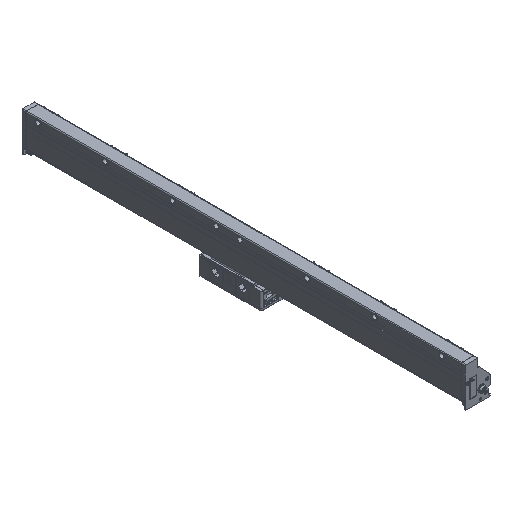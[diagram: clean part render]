
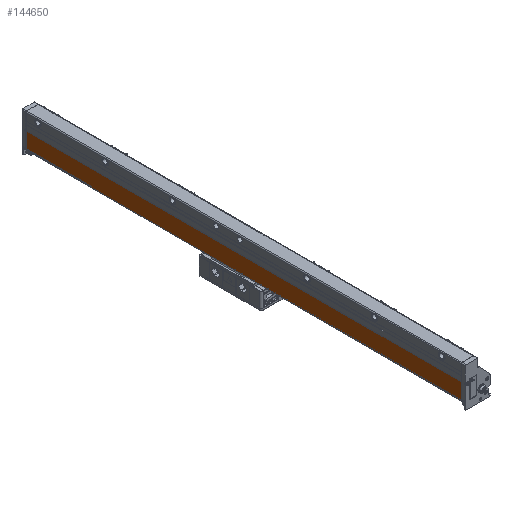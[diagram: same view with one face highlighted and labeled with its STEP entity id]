
A CAD part, isometric view. The second image highlights one B-rep face of the part: STEP entity #144650.
In plain terms, the highlighted planar face has unit normal (-1, 0, 0).
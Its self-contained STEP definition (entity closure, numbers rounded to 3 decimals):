
#13860=CARTESIAN_POINT('',(-2.2,313.,
60.2));
#13870=VERTEX_POINT('',#13860);
#13900=CARTESIAN_POINT('',(-2.2,313.,
35.5));
#13910=DIRECTION('',(0.,0.,1.));
#13920=VECTOR('',#13910,1.);
#13930=LINE('',#13900,#13920);
#13940=CARTESIAN_POINT('',(-2.2,313.,
35.5));
#13950=VERTEX_POINT('',#13940);
#13960=EDGE_CURVE('',#13950,#13870,#13930,.T.);
#132680=CARTESIAN_POINT('',(-2.2,213.,
35.5));
#132690=DIRECTION('',(0.,-1.,0.));
#132700=VECTOR('',#132690,1.);
#132710=LINE('',#132680,#132700);
#132720=CARTESIAN_POINT('',(-2.2,-334.,
35.5));
#132730=VERTEX_POINT('',#132720);
#132740=EDGE_CURVE('',#13950,#132730,#132710,.T.);
#132920=CARTESIAN_POINT('',(-2.2,-334.,
35.5));
#132930=DIRECTION('',(0.,0.,1.));
#132940=VECTOR('',#132930,1.);
#132950=LINE('',#132920,#132940);
#132960=CARTESIAN_POINT('',(-2.2,-334.,
60.2));
#132970=VERTEX_POINT('',#132960);
#132980=EDGE_CURVE('',#132730,#132970,#132950,.T.);
#144450=CARTESIAN_POINT('',(-2.2,213.,
60.2));
#144460=DIRECTION('',(0.,-1.,0.));
#144470=VECTOR('',#144460,1.);
#144480=LINE('',#144450,#144470);
#144490=EDGE_CURVE('',#13870,#132970,#144480,.T.);
#144540=CARTESIAN_POINT('',(-2.2,213.,
60.2));
#144550=DIRECTION('',(1.,0.,-0.));
#144560=DIRECTION('',(0.,0.,1.));
#144570=AXIS2_PLACEMENT_3D('',#144540,#144550,#144560);
#144580=PLANE('',#144570);
#144590=ORIENTED_EDGE('',*,*,#13960,.F.);
#144600=ORIENTED_EDGE('',*,*,#144490,.F.);
#144610=ORIENTED_EDGE('',*,*,#132980,.T.);
#144620=ORIENTED_EDGE('',*,*,#132740,.T.);
#144630=EDGE_LOOP('',(#144620,#144610,#144600,#144590));
#144640=FACE_OUTER_BOUND('',#144630,.T.);
#144650=ADVANCED_FACE('',(#144640),#144580,.F.);
